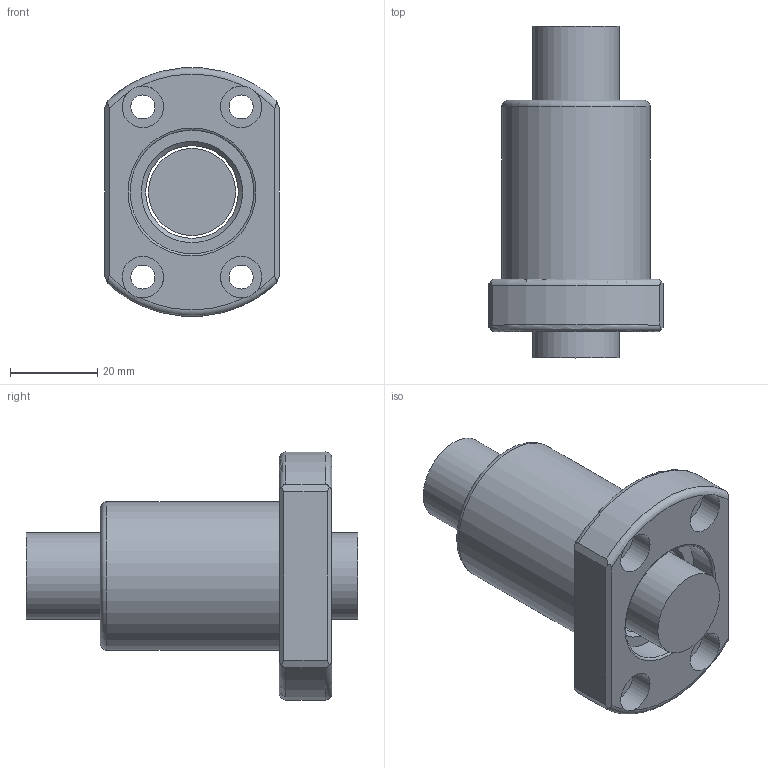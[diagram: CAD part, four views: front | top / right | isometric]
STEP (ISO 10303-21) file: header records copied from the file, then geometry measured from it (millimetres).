
FILE_DESCRIPTION(/* description */ (''),/* implementation_level */ '2;1');
FILE_NAME(/* name */ '2005T4D.prt.step',/* time_stamp */ '2008-12-05T09:33:21+08:00',/* author */ (''),/* organization */ (''),/* preprocessor_version */ 'ST-DEVELOPER v11',/* originating_system */ 'SIEMENS UGS NX 6.0',/* authorisation */ '');
FILE_SCHEMA (('AUTOMOTIVE_DESIGN { 1 0 10303 214 1 1 1 1 }'));
Length unit declared in the file: millimetre
Products named in the file (1): 2005T4D
Bounding box: 40 x 76 x 56.81 mm (x, y, z)
Volume: 61096.8 mm3; surface area: 19566.1 mm2
Topology: 2 solids, 2 shells, 49 faces, 122 edges, 80 vertices
Faces by surface type: plane 21, cylinder 15, torus 7, cone 6
Full cylindrical faces by diameter (mm): 5.5 x4, 9.5 x4, 19.95 x1, 21.2 x1, 28.3 x2, 34 x1
Entity records: 1530 total; most frequent: CARTESIAN_POINT 452, DIRECTION 218, ORIENTED_EDGE 182, AXIS2_PLACEMENT_3D 97, EDGE_CURVE 91, EDGE_LOOP 84, VERTEX_POINT 71, FACE_BOUND 66
